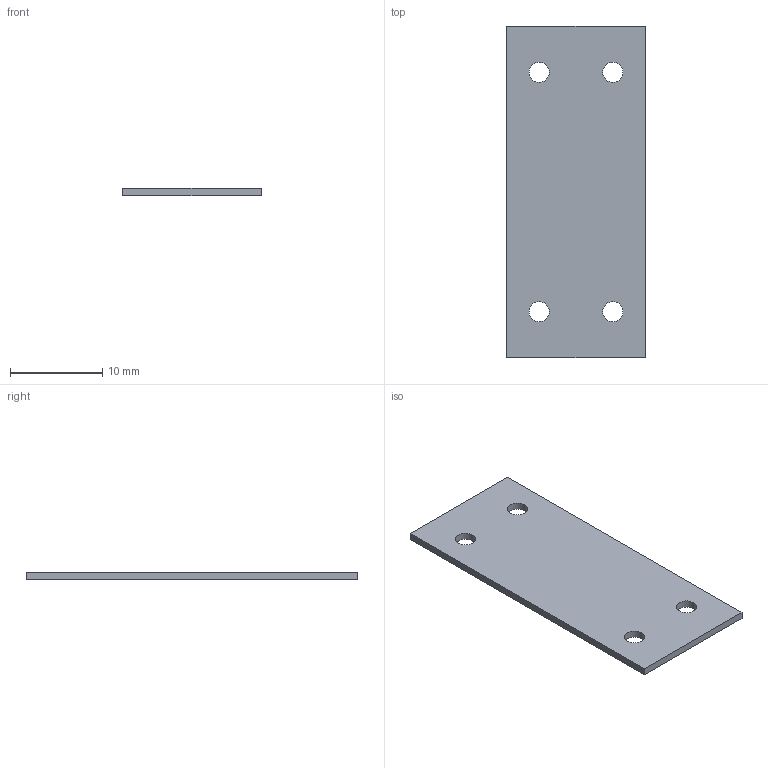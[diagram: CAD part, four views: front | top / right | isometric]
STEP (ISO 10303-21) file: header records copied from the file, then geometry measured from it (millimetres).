
FILE_DESCRIPTION(/* description */ (''),/* implementation_level */ '2;1');
FILE_NAME(/* name */ 'PDB-02-203_Hatch_Retainer_Strip_R01.step',/* time_stamp */ '2026-11-24T01:50:38+05:00',/* author */ (''),/* organization */ (''),/* preprocessor_version */ 'ST-DEVELOPER v20.2',/* originating_system */ 'Autodesk Translation Framework v15.17.0.0',/* authorisation */ '');
FILE_SCHEMA (('AUTOMOTIVE_DESIGN { 1 0 10303 214 3 1 1 }'));
Length unit declared in the file: centimetre
Products named in the file (1): 2026-11-24-01-50-38-583
Bounding box: 15 x 36 x 0.8 mm (x, y, z)
Volume: 419.8 mm3; surface area: 1153.3 mm2
Topology: 1 solids, 1 shells, 10 faces, 24 edges, 16 vertices
Faces by surface type: plane 6, cylinder 4
Full cylindrical faces by diameter (mm): 2.2 x4
Entity records: 345 total; most frequent: DIRECTION 54, CARTESIAN_POINT 51, ORIENTED_EDGE 48, EDGE_CURVE 24, AXIS2_PLACEMENT_3D 19, EDGE_LOOP 18, LINE 16, VECTOR 16
